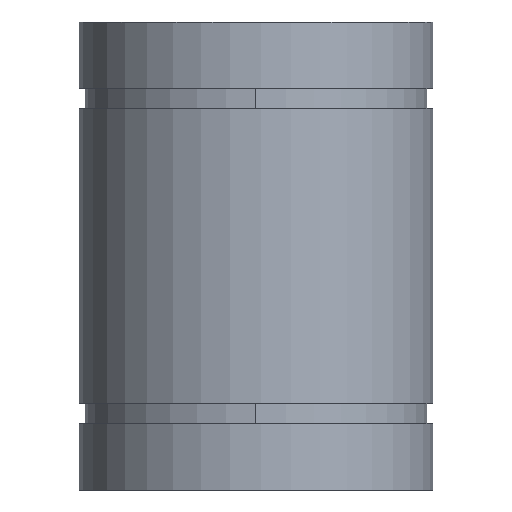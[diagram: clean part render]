
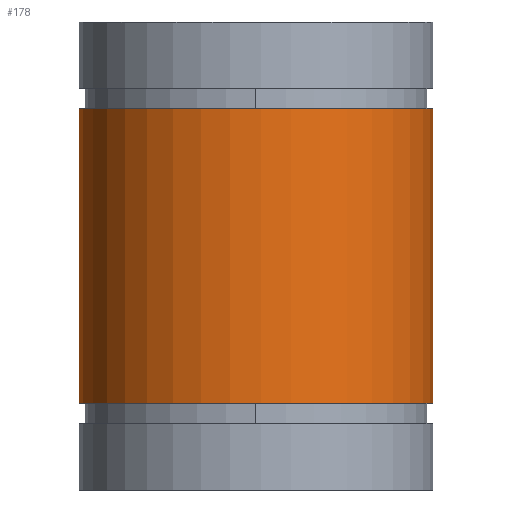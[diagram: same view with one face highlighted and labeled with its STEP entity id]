
A CAD part, front view. The second image highlights one B-rep face of the part: STEP entity #178.
In plain terms, the highlighted cylindrical face has radius 14 mm (diameter 28 mm), a partial arc.
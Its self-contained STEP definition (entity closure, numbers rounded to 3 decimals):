
#137=CARTESIAN_POINT('',(0.0,0.0,0.0));
#138=DIRECTION('',(0.0,0.0,1.0));
#139=DIRECTION('',(-1.0,0.0,0.0));
#140=AXIS2_PLACEMENT_3D('',#137,#138,#139);
#141=CYLINDRICAL_SURFACE('',#140,14.);
#142=CARTESIAN_POINT('',(14.,0.,30.15));
#143=VERTEX_POINT('',#142);
#144=CARTESIAN_POINT('',(14.,0.,6.85));
#145=VERTEX_POINT('',#144);
#146=CARTESIAN_POINT('',(14.,0.,30.15));
#147=DIRECTION('',(0.0,0.0,-1.0));
#148=VECTOR('',#147,23.3);
#149=LINE('',#146,#148);
#150=EDGE_CURVE('',#143,#145,#149,.T.);
#151=ORIENTED_EDGE('',*,*,#150,.F.);
#152=CARTESIAN_POINT('',(-13.98,-0.75,30.15));
#153=VERTEX_POINT('',#152);
#154=CARTESIAN_POINT('',(0.0,0.0,30.15));
#155=DIRECTION('',(0.0,0.0,-1.0));
#156=DIRECTION('',(-1.0,0.0,0.0));
#157=AXIS2_PLACEMENT_3D('',#154,#155,#156);
#158=CIRCLE('',#157,14.);
#159=EDGE_CURVE('',#143,#153,#158,.T.);
#160=ORIENTED_EDGE('',*,*,#159,.T.);
#161=CARTESIAN_POINT('',(-13.98,-0.75,6.85));
#162=VERTEX_POINT('',#161);
#163=CARTESIAN_POINT('',(-13.98,-0.75,30.15));
#164=DIRECTION('',(0.0,0.0,-1.0));
#165=VECTOR('',#164,23.3);
#166=LINE('',#163,#165);
#167=EDGE_CURVE('',#153,#162,#166,.T.);
#168=ORIENTED_EDGE('',*,*,#167,.T.);
#169=CARTESIAN_POINT('',(0.0,0.0,6.85));
#170=DIRECTION('',(0.0,0.0,1.0));
#171=DIRECTION('',(-1.0,0.0,0.0));
#172=AXIS2_PLACEMENT_3D('',#169,#170,#171);
#173=CIRCLE('',#172,14.);
#174=EDGE_CURVE('',#162,#145,#173,.T.);
#175=ORIENTED_EDGE('',*,*,#174,.T.);
#176=EDGE_LOOP('',(#151,#160,#168,#175));
#177=FACE_OUTER_BOUND('',#176,.T.);
#178=ADVANCED_FACE('',(#177),#141,.T.);
